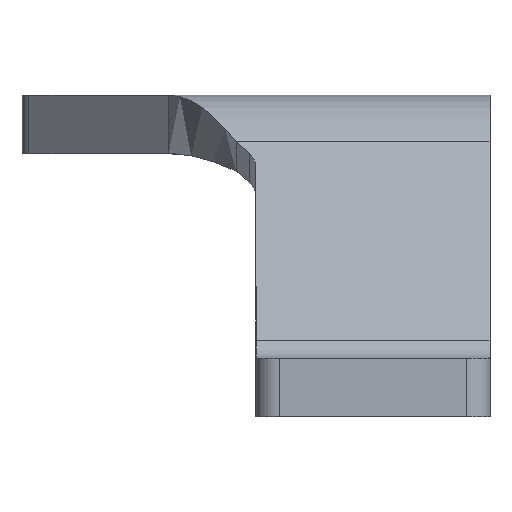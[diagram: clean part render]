
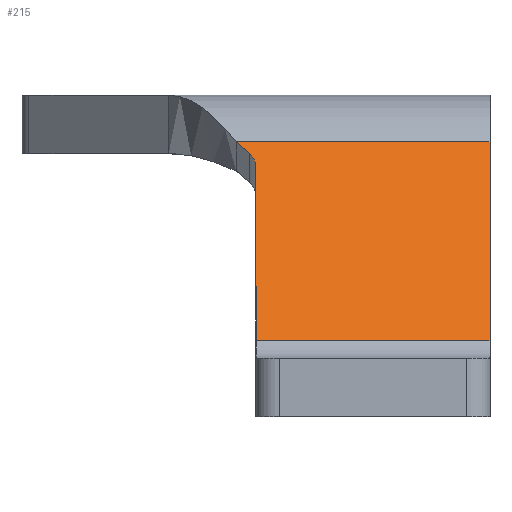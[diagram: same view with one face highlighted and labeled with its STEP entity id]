
A CAD part, left-side view. The second image highlights one B-rep face of the part: STEP entity #215.
In plain terms, the highlighted planar face has unit normal (-0.866, 0, 0.5).
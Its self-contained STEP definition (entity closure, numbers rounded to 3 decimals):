
#3 = DIRECTION ( 'NONE',  ( -0.866, 0., 0.5 ) ) ;
#21 = ORIENTED_EDGE ( 'NONE', *, *, #530, .T. ) ;
#27 = CARTESIAN_POINT ( 'NONE',  ( 33.975, 20.586, 22.533 ) ) ;
#33 = LINE ( 'NONE', #706, #999 ) ;
#60 = CIRCLE ( 'NONE', #615, 2. ) ;
#104 = LINE ( 'NONE', #803, #724 ) ;
#156 = ORIENTED_EDGE ( 'NONE', *, *, #540, .T. ) ;
#177 = CARTESIAN_POINT ( 'NONE',  ( 33.268, 22., 21.309 ) ) ;
#189 = EDGE_CURVE ( 'NONE', #329, #865, #60, .T. ) ;
#215 = ADVANCED_FACE ( 'NONE', ( #1139 ), #634, .T. ) ;
#284 = LINE ( 'NONE', #686, #625 ) ;
#327 = DIRECTION ( 'NONE',  ( 0., 1., 0. ) ) ;
#329 = VERTEX_POINT ( 'NONE', #27 ) ;
#333 = DIRECTION ( 'NONE',  ( 0.5, 0., 0.866 ) ) ;
#343 = DIRECTION ( 'NONE',  ( -0.354, -0.707, -0.612 ) ) ;
#355 = VERTEX_POINT ( 'NONE', #479 ) ;
#372 = ORIENTED_EDGE ( 'NONE', *, *, #990, .T. ) ;
#432 = VERTEX_POINT ( 'NONE', #1159 ) ;
#453 = DIRECTION ( 'NONE',  ( 0.5, 0., 0.866 ) ) ;
#454 = EDGE_LOOP ( 'NONE', ( #156, #21, #372, #1175, #1081, #498 ) ) ;
#458 = DIRECTION ( 'NONE',  ( 0.5, 0., 0.866 ) ) ;
#471 = EDGE_CURVE ( 'NONE', #432, #355, #284, .T. ) ;
#479 = CARTESIAN_POINT ( 'NONE',  ( 24.718, 20., 6.5 ) ) ;
#498 = ORIENTED_EDGE ( 'NONE', *, *, #471, .F. ) ;
#530 = EDGE_CURVE ( 'NONE', #988, #1096, #695, .T. ) ;
#540 = EDGE_CURVE ( 'NONE', #432, #988, #741, .T. ) ;
#578 = EDGE_CURVE ( 'NONE', #865, #355, #104, .T. ) ;
#612 = CARTESIAN_POINT ( 'NONE',  ( 10.778, 0., -17.645 ) ) ;
#615 = AXIS2_PLACEMENT_3D ( 'NONE', #177, #731, #453 ) ;
#619 = CARTESIAN_POINT ( 'NONE',  ( 34.533, 21.702, 23.5 ) ) ;
#625 = VECTOR ( 'NONE', #977, 1000. ) ;
#634 = PLANE ( 'NONE',  #863 ) ;
#686 = CARTESIAN_POINT ( 'NONE',  ( 24.718, 40., 6.5 ) ) ;
#695 = LINE ( 'NONE', #792, #982 ) ;
#706 = CARTESIAN_POINT ( 'NONE',  ( 43.682, 40., 39.347 ) ) ;
#724 = VECTOR ( 'NONE', #906, 1000. ) ;
#731 = DIRECTION ( 'NONE',  ( 0.866, 0., -0.5 ) ) ;
#741 = LINE ( 'NONE', #612, #787 ) ;
#787 = VECTOR ( 'NONE', #333, 1000. ) ;
#792 = CARTESIAN_POINT ( 'NONE',  ( 34.533, 40., 23.5 ) ) ;
#803 = CARTESIAN_POINT ( 'NONE',  ( 27.778, 20., 11.8 ) ) ;
#863 = AXIS2_PLACEMENT_3D ( 'NONE', #1117, #3, #458 ) ;
#865 = VERTEX_POINT ( 'NONE', #1148 ) ;
#879 = CARTESIAN_POINT ( 'NONE',  ( 34.533, 0., 23.5 ) ) ;
#906 = DIRECTION ( 'NONE',  ( -0.5, 0., -0.866 ) ) ;
#977 = DIRECTION ( 'NONE',  ( 0., 1., 0. ) ) ;
#982 = VECTOR ( 'NONE', #327, 1000. ) ;
#988 = VERTEX_POINT ( 'NONE', #879 ) ;
#990 = EDGE_CURVE ( 'NONE', #1096, #329, #33, .T. ) ;
#999 = VECTOR ( 'NONE', #343, 1000. ) ;
#1081 = ORIENTED_EDGE ( 'NONE', *, *, #578, .T. ) ;
#1096 = VERTEX_POINT ( 'NONE', #619 ) ;
#1117 = CARTESIAN_POINT ( 'NONE',  ( 10.778, 40., -17.645 ) ) ;
#1139 = FACE_OUTER_BOUND ( 'NONE', #454, .T. ) ;
#1148 = CARTESIAN_POINT ( 'NONE',  ( 33.268, 20., 21.309 ) ) ;
#1159 = CARTESIAN_POINT ( 'NONE',  ( 24.718, 0., 6.5 ) ) ;
#1175 = ORIENTED_EDGE ( 'NONE', *, *, #189, .T. ) ;
